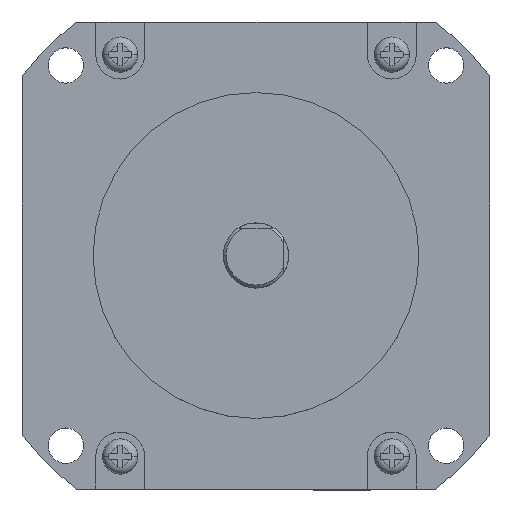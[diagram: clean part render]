
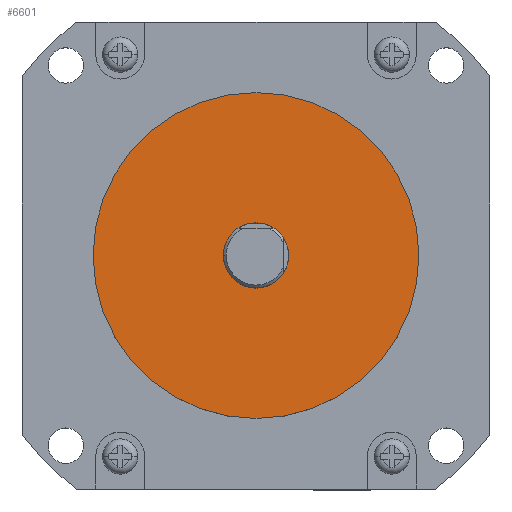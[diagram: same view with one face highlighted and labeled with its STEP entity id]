
A CAD part, top view. The second image highlights one B-rep face of the part: STEP entity #6601.
In plain terms, the highlighted planar face has unit normal (0, 0, 1).
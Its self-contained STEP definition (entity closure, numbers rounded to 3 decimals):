
#148 = EDGE_CURVE ( 'NONE', #6770, #6757, #1362, .T. ) ;
#165 = EDGE_CURVE ( 'NONE', #6682, #6745, #1387, .T. ) ;
#1362 = CIRCLE ( 'NONE', #7192, 30. ) ;
#1387 = CIRCLE ( 'NONE', #7203, 6. ) ;
#1812 = DIRECTION ( 'NONE',  ( 1., 0., 0. ) ) ;
#1813 = DIRECTION ( 'NONE',  ( 0., 0., 1. ) ) ;
#1819 = CARTESIAN_POINT ( 'NONE',  ( 0., 0., 6.25 ) ) ;
#1872 = DIRECTION ( 'NONE',  ( 1., 0., 0. ) ) ;
#1873 = DIRECTION ( 'NONE',  ( 0., 0., 1. ) ) ;
#1874 = CARTESIAN_POINT ( 'NONE',  ( 0., 0., 6.25 ) ) ;
#1906 = ORIENTED_EDGE ( 'NONE', *, *, #165, .F. ) ;
#1907 = ORIENTED_EDGE ( 'NONE', *, *, #7145, .F. ) ;
#1908 = ORIENTED_EDGE ( 'NONE', *, *, #148, .T. ) ;
#1909 = ORIENTED_EDGE ( 'NONE', *, *, #7146, .T. ) ;
#2236 = FACE_BOUND ( 'NONE', #5333, .T. ) ;
#2237 = FACE_OUTER_BOUND ( 'NONE', #5332, .T. ) ;
#2344 = CIRCLE ( 'NONE', #5634, 6. ) ;
#2346 = CIRCLE ( 'NONE', #5637, 30. ) ;
#3709 = CARTESIAN_POINT ( 'NONE',  ( 0., 0., 6.25 ) ) ;
#3722 = PLANE ( 'NONE',  #5621 ) ;
#3723 = DIRECTION ( 'NONE',  ( 0., 0., 1. ) ) ;
#3724 = DIRECTION ( 'NONE',  ( 1., 0., 0. ) ) ;
#3756 = CARTESIAN_POINT ( 'NONE',  ( 6., 0., 6.25 ) ) ;
#3819 = CARTESIAN_POINT ( 'NONE',  ( -6., 0., 6.25 ) ) ;
#3831 = CARTESIAN_POINT ( 'NONE',  ( -30., 0., 6.25 ) ) ;
#3844 = CARTESIAN_POINT ( 'NONE',  ( 30., 0., 6.25 ) ) ;
#4245 = CARTESIAN_POINT ( 'NONE',  ( 0., 0., 6.25 ) ) ;
#4248 = CARTESIAN_POINT ( 'NONE',  ( 0., 0., 6.25 ) ) ;
#4250 = DIRECTION ( 'NONE',  ( 0., 0., 1. ) ) ;
#4251 = DIRECTION ( 'NONE',  ( 1., 0., 0. ) ) ;
#4252 = DIRECTION ( 'NONE',  ( 0., 0., 1. ) ) ;
#4253 = DIRECTION ( 'NONE',  ( 1., 0., 0. ) ) ;
#5332 = EDGE_LOOP ( 'NONE', ( #1909, #1908 ) ) ;
#5333 = EDGE_LOOP ( 'NONE', ( #1907, #1906 ) ) ;
#5621 = AXIS2_PLACEMENT_3D ( 'NONE', #3709, #3723, #3724 ) ;
#5634 = AXIS2_PLACEMENT_3D ( 'NONE', #4248, #4250, #4251 ) ;
#5637 = AXIS2_PLACEMENT_3D ( 'NONE', #4245, #4252, #4253 ) ;
#6601 = ADVANCED_FACE ( 'NONE', ( #2237, #2236 ), #3722, .T. ) ;
#6682 = VERTEX_POINT ( 'NONE', #3756 ) ;
#6745 = VERTEX_POINT ( 'NONE', #3819 ) ;
#6757 = VERTEX_POINT ( 'NONE', #3831 ) ;
#6770 = VERTEX_POINT ( 'NONE', #3844 ) ;
#7145 = EDGE_CURVE ( 'NONE', #6745, #6682, #2344, .T. ) ;
#7146 = EDGE_CURVE ( 'NONE', #6757, #6770, #2346, .T. ) ;
#7192 = AXIS2_PLACEMENT_3D ( 'NONE', #1874, #1873, #1872 ) ;
#7203 = AXIS2_PLACEMENT_3D ( 'NONE', #1819, #1813, #1812 ) ;
